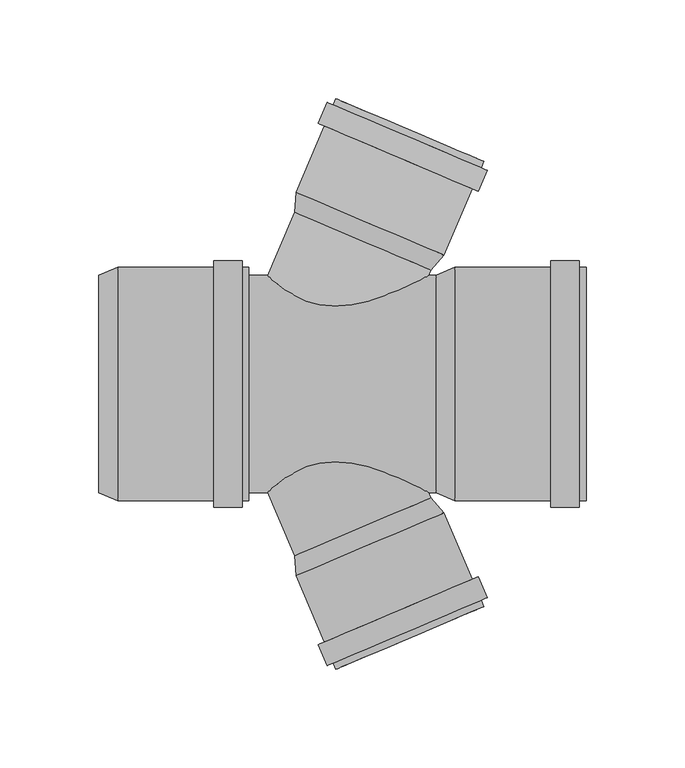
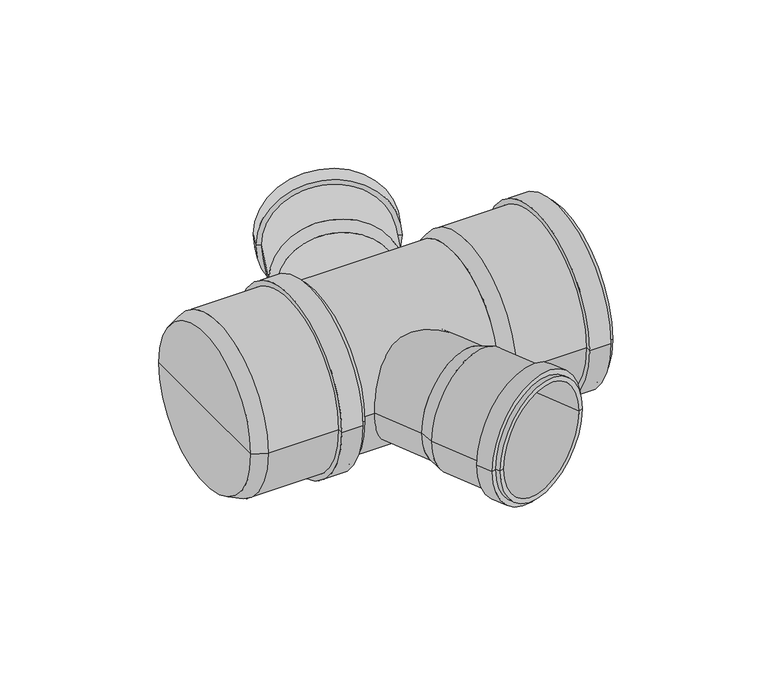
"""IFC4 building model written with IfcOpenShell, lengths in millimetres: pipe fitting geometry, pf_HTDA : pf_HTDA."""

from ifc_helpers import new_model, si_unit, point, frame, origin, origin_2d, place, context, project, spatial, polyline, circle_curve, trimmed, segment, composite_curve, outline, extrude, source, transform, mapped, element, save
from ifc_brep_helpers import plane_surface, cylinder_surface, revolved_surface, advanced_brep


def pipe_fitting_336e07cd(model_context):
    return source(origin(), model_context, "Body", "SolidModel", [
        advanced_brep(
        [(65.2303987, 57.6992642, 0.0), (-3.8074653, 87.0040988, 0.0), (-2.9490846, 96.9601614, 0.0), (71.7959095, 65.2327938, 0.0), (30.7114667, 72.3516815, 0.0), (91.9185626, 112.6387937, 0.0), (17.1735685, 144.3661614, 0.0), (20.0271335, 143.1548949, 0.0), (89.0649975, 113.8500602, 0.0), (90.5900768, 109.5090772, 0.0), (15.8450827, 141.2364449, 0.0), (93.7197933, 108.1805914, 0.0), (12.7153661, 142.5649307, 0.0), (89.1873122, 97.5027351, 0.0), (8.1828851, 131.8870744, 0.0), (86.0575957, 98.8312209, 0.0), (11.3126016, 130.5585886, 0.0), (68.9423444, 66.4440603, 0.0), (-0.0955196, 95.7488949, 0.0), (34.4234124, 81.0964776, 0.0)],
        [
            (0, 1, circle_curve(frame((30.7114667, 72.3516815, 0.0), z_axis=(0.39073112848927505, 0.9205048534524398, 0.0), x_axis=(-0.9205048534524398, 0.39073112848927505, 0.0)), 37.5)),
            (1, 2),
            (2, 3, circle_curve(frame((34.4234124, 81.0964776, 0.0), z_axis=(-0.39073112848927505, -0.9205048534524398, 0.0), x_axis=(-0.9205048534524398, 0.39073112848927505, 0.0)), 40.6)),
            (3, 0),
            (1, 0, circle_curve(frame((30.7114667, 72.3516815, 0.0), z_axis=(0.39073112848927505, 0.9205048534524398, 0.0), x_axis=(-0.9205048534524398, 0.39073112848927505, 0.0)), 37.5)),
            (3, 2, circle_curve(frame((34.4234124, 81.0964776, 0.0), z_axis=(-0.39073112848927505, -0.9205048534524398, 0.0), x_axis=(-0.9205048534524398, 0.39073112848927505, 0.0)), 40.6)),
            (4, 1),
            (0, 4),
            (5, 6, circle_curve(frame((54.5460655, 128.5024775, 0.0), z_axis=(0.39073112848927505, 0.9205048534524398, 0.0), x_axis=(-0.9205048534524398, 0.39073112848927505, 0.0)), 40.6)),
            (6, 7),
            (7, 8, circle_curve(frame((54.5460655, 128.5024775, 0.0), z_axis=(-0.39073112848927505, -0.9205048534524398, 0.0), x_axis=(-0.9205048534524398, 0.39073112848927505, 0.0)), 37.5)),
            (8, 5),
            (6, 5, circle_curve(frame((54.5460655, 128.5024775, 0.0), z_axis=(0.39073112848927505, 0.9205048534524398, 0.0), x_axis=(-0.9205048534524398, 0.39073112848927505, 0.0)), 40.6)),
            (8, 7, circle_curve(frame((54.5460655, 128.5024775, 0.0), z_axis=(-0.39073112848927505, -0.9205048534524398, 0.0), x_axis=(-0.9205048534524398, 0.39073112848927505, 0.0)), 37.5)),
            (9, 10, circle_curve(frame((53.2175797, 125.372761, 0.0), z_axis=(0.39073112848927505, 0.9205048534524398, 0.0), x_axis=(-0.9205048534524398, 0.39073112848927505, 0.0)), 40.6)),
            (10, 6),
            (5, 9),
            (10, 9, circle_curve(frame((53.2175797, 125.372761, 0.0), z_axis=(0.39073112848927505, 0.9205048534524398, 0.0), x_axis=(-0.9205048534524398, 0.39073112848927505, 0.0)), 40.6)),
            (11, 12, circle_curve(frame((53.2175797, 125.372761, 0.0), z_axis=(0.39073112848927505, 0.9205048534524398, 0.0), x_axis=(-0.9205048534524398, 0.39073112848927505, 0.0)), 44.0)),
            (12, 10),
            (9, 11),
            (12, 11, circle_curve(frame((53.2175797, 125.372761, 0.0), z_axis=(0.39073112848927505, 0.9205048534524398, 0.0), x_axis=(-0.9205048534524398, 0.39073112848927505, 0.0)), 44.0)),
            (13, 14, circle_curve(frame((48.6850986, 114.6949047, 0.0), z_axis=(0.39073112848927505, 0.9205048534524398, 0.0), x_axis=(-0.9205048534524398, 0.39073112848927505, 0.0)), 44.0)),
            (14, 12),
            (11, 13),
            (14, 13, circle_curve(frame((48.6850986, 114.6949047, 0.0), z_axis=(0.39073112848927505, 0.9205048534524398, 0.0), x_axis=(-0.9205048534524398, 0.39073112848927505, 0.0)), 44.0)),
            (15, 16, circle_curve(frame((48.6850986, 114.6949047, 0.0), z_axis=(0.39073112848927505, 0.9205048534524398, 0.0), x_axis=(-0.9205048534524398, 0.39073112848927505, 0.0)), 40.6)),
            (16, 14),
            (13, 15),
            (16, 15, circle_curve(frame((48.6850986, 114.6949047, 0.0), z_axis=(0.39073112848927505, 0.9205048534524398, 0.0), x_axis=(-0.9205048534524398, 0.39073112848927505, 0.0)), 40.6)),
            (2, 16),
            (15, 3),
            (17, 18, circle_curve(frame((34.4234124, 81.0964776, 0.0), z_axis=(0.39073112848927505, 0.9205048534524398, 0.0), x_axis=(-0.9205048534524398, 0.39073112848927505, 0.0)), 37.5)),
            (18, 19),
            (19, 17),
            (18, 17, circle_curve(frame((34.4234124, 81.0964776, 0.0), z_axis=(0.39073112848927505, 0.9205048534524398, 0.0), x_axis=(-0.9205048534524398, 0.39073112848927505, 0.0)), 37.5)),
            (7, 18),
            (17, 8),
        ],
        [
            revolved_surface(polyline([(-2.9490846, 96.9601614, 0.0), (-3.8074653, 87.0040988, 0.0)]), (30.7114667, 72.3516815, 0.0), (-0.39073112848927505, -0.9205048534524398, 0.0)),
            plane_surface(frame((30.7114667, 72.3516815, 0.0), z_axis=(-0.39073112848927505, -0.9205048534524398, 0.0), x_axis=(-0.9205048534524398, 0.39073112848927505, 0.0))),
            plane_surface(frame((54.5460655, 128.5024775, 0.0), z_axis=(0.39073112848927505, 0.9205048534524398, 0.0), x_axis=(-0.9205048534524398, 0.39073112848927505, 0.0))),
            cylinder_surface(frame((30.7114667, 72.3516815, 0.0), z_axis=(-0.39073112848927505, -0.9205048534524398, 0.0), x_axis=(-0.9205048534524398, 0.39073112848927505, 0.0)), 40.6),
            plane_surface(frame((53.2175797, 125.372761, 0.0), z_axis=(0.39073112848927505, 0.9205048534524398, 0.0), x_axis=(-0.9205048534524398, 0.39073112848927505, 0.0))),
            cylinder_surface(frame((30.7114667, 72.3516815, 0.0), z_axis=(-0.39073112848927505, -0.9205048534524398, 0.0), x_axis=(-0.9205048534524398, 0.39073112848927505, 0.0)), 44.0),
            plane_surface(frame((48.6850986, 114.6949047, 0.0), z_axis=(-0.39073112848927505, -0.9205048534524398, 0.0), x_axis=(-0.9205048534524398, 0.39073112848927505, 0.0))),
            plane_surface(frame((34.4234124, 81.0964776, 0.0), z_axis=(0.39073112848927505, 0.9205048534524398, 0.0), x_axis=(-0.9205048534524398, 0.39073112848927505, 0.0))),
            revolved_surface(polyline([(-0.0955195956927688, 95.74889489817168, 0.0), (20.027133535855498, 143.15489488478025, 0.0)]), (30.7114667, 72.3516815, 0.0), (-0.39073112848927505, -0.9205048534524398, 0.0)),
        ],
        [
            (0, [[1, 2, 3, 4]]),
            (0, [[5, -4, 6, -2]]),
            (1, [[7, -1, 8]]),
            (1, [[-8, -5, -7]]),
            (2, [[9, 10, 11, 12]]),
            (2, [[13, -12, 14, -10]]),
            (3, [[15, 16, -9, 17]]),
            (3, [[18, -17, -13, -16]]),
            (4, [[19, 20, -15, 21]]),
            (4, [[22, -21, -18, -20]]),
            (5, [[23, 24, -19, 25]]),
            (5, [[26, -25, -22, -24]]),
            (6, [[27, 28, -23, 29]]),
            (6, [[30, -29, -26, -28]]),
            (3, [[-3, 31, -27, 32]]),
            (3, [[-6, -32, -30, -31]]),
            (7, [[33, 34, 35]]),
            (7, [[36, -35, -34]]),
            (8, [[-11, 37, -33, 38]]),
            (8, [[-14, -38, -36, -37]]),
        ],
    ),
        advanced_brep(
        [(-3.8074653, -87.0040988, 0.0), (65.2303987, -57.6992642, 0.0), (71.7959095, -65.2327938, 0.0), (-2.9490846, -96.9601614, 0.0), (30.7114667, -72.3516815, 0.0), (17.1735685, -144.3661614, 0.0), (91.9185626, -112.6387937, 0.0), (89.0649975, -113.8500602, 0.0), (20.0271335, -143.1548949, 0.0), (15.8450827, -141.2364449, 0.0), (90.5900768, -109.5090772, 0.0), (12.7153661, -142.5649307, 0.0), (93.7197933, -108.1805914, 0.0), (8.1828851, -131.8870744, 0.0), (89.1873122, -97.5027351, 0.0), (11.3126016, -130.5585886, 0.0), (86.0575957, -98.8312209, 0.0), (-0.0955196, -95.7488949, 0.0), (68.9423444, -66.4440603, 0.0), (34.4234124, -81.0964776, 0.0)],
        [
            (0, 1, circle_curve(frame((30.7114667, -72.3516815, 0.0), z_axis=(0.3907311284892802, -0.9205048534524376, 0.0), x_axis=(0.9205048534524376, 0.3907311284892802, 0.0)), 37.5)),
            (1, 2),
            (2, 3, circle_curve(frame((34.4234124, -81.0964776, 0.0), z_axis=(-0.3907311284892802, 0.9205048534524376, 0.0), x_axis=(0.9205048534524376, 0.3907311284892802, 0.0)), 40.6)),
            (3, 0),
            (1, 0, circle_curve(frame((30.7114667, -72.3516815, 0.0), z_axis=(0.3907311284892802, -0.9205048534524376, 0.0), x_axis=(0.9205048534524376, 0.3907311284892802, 0.0)), 37.5)),
            (3, 2, circle_curve(frame((34.4234124, -81.0964776, 0.0), z_axis=(-0.3907311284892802, 0.9205048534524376, 0.0), x_axis=(0.9205048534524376, 0.3907311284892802, 0.0)), 40.6)),
            (4, 1),
            (0, 4),
            (5, 6, circle_curve(frame((54.5460655, -128.5024775, 0.0), z_axis=(0.3907311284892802, -0.9205048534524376, 0.0), x_axis=(0.9205048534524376, 0.3907311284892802, 0.0)), 40.6)),
            (6, 7),
            (7, 8, circle_curve(frame((54.5460655, -128.5024775, 0.0), z_axis=(-0.3907311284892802, 0.9205048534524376, 0.0), x_axis=(0.9205048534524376, 0.3907311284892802, 0.0)), 37.5)),
            (8, 5),
            (6, 5, circle_curve(frame((54.5460655, -128.5024775, 0.0), z_axis=(0.3907311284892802, -0.9205048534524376, 0.0), x_axis=(0.9205048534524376, 0.3907311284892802, 0.0)), 40.6)),
            (8, 7, circle_curve(frame((54.5460655, -128.5024775, 0.0), z_axis=(-0.3907311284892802, 0.9205048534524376, 0.0), x_axis=(0.9205048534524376, 0.3907311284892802, 0.0)), 37.5)),
            (9, 10, circle_curve(frame((53.2175797, -125.372761, 0.0), z_axis=(0.3907311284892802, -0.9205048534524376, 0.0), x_axis=(0.9205048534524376, 0.3907311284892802, 0.0)), 40.6)),
            (10, 6),
            (5, 9),
            (10, 9, circle_curve(frame((53.2175797, -125.372761, 0.0), z_axis=(0.3907311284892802, -0.9205048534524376, 0.0), x_axis=(0.9205048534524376, 0.3907311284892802, 0.0)), 40.6)),
            (11, 12, circle_curve(frame((53.2175797, -125.372761, 0.0), z_axis=(0.3907311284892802, -0.9205048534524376, 0.0), x_axis=(0.9205048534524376, 0.3907311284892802, 0.0)), 44.0)),
            (12, 10),
            (9, 11),
            (12, 11, circle_curve(frame((53.2175797, -125.372761, 0.0), z_axis=(0.3907311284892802, -0.9205048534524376, 0.0), x_axis=(0.9205048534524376, 0.3907311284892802, 0.0)), 44.0)),
            (13, 14, circle_curve(frame((48.6850986, -114.6949047, 0.0), z_axis=(0.3907311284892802, -0.9205048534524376, 0.0), x_axis=(0.9205048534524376, 0.3907311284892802, 0.0)), 44.0)),
            (14, 12),
            (11, 13),
            (14, 13, circle_curve(frame((48.6850986, -114.6949047, 0.0), z_axis=(0.3907311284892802, -0.9205048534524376, 0.0), x_axis=(0.9205048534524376, 0.3907311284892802, 0.0)), 44.0)),
            (15, 16, circle_curve(frame((48.6850986, -114.6949047, 0.0), z_axis=(0.3907311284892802, -0.9205048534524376, 0.0), x_axis=(0.9205048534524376, 0.3907311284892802, 0.0)), 40.6)),
            (16, 14),
            (13, 15),
            (16, 15, circle_curve(frame((48.6850986, -114.6949047, 0.0), z_axis=(0.3907311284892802, -0.9205048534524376, 0.0), x_axis=(0.9205048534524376, 0.3907311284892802, 0.0)), 40.6)),
            (2, 16),
            (15, 3),
            (17, 18, circle_curve(frame((34.4234124, -81.0964776, 0.0), z_axis=(0.3907311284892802, -0.9205048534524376, 0.0), x_axis=(0.9205048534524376, 0.3907311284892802, 0.0)), 37.5)),
            (18, 19),
            (19, 17),
            (18, 17, circle_curve(frame((34.4234124, -81.0964776, 0.0), z_axis=(0.3907311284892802, -0.9205048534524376, 0.0), x_axis=(0.9205048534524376, 0.3907311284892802, 0.0)), 37.5)),
            (7, 18),
            (17, 8),
        ],
        [
            revolved_surface(polyline([(71.7959095, -65.2327938, 0.0), (65.2303987, -57.6992642, 0.0)]), (30.7114667, -72.3516815, 0.0), (-0.3907311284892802, 0.9205048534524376, 0.0)),
            plane_surface(frame((30.7114667, -72.3516815, 0.0), z_axis=(-0.3907311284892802, 0.9205048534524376, 0.0), x_axis=(0.9205048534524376, 0.3907311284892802, 0.0))),
            plane_surface(frame((54.5460655, -128.5024775, 0.0), z_axis=(0.3907311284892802, -0.9205048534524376, 0.0), x_axis=(0.9205048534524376, 0.3907311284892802, 0.0))),
            cylinder_surface(frame((30.7114667, -72.3516815, 0.0), z_axis=(-0.3907311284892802, 0.9205048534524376, 0.0), x_axis=(0.9205048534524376, 0.3907311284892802, 0.0)), 40.6),
            plane_surface(frame((53.2175797, -125.372761, 0.0), z_axis=(0.3907311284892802, -0.9205048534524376, 0.0), x_axis=(0.9205048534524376, 0.3907311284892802, 0.0))),
            cylinder_surface(frame((30.7114667, -72.3516815, 0.0), z_axis=(-0.3907311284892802, 0.9205048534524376, 0.0), x_axis=(0.9205048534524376, 0.3907311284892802, 0.0)), 44.0),
            plane_surface(frame((48.6850986, -114.6949047, 0.0), z_axis=(-0.3907311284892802, 0.9205048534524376, 0.0), x_axis=(0.9205048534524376, 0.3907311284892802, 0.0))),
            plane_surface(frame((34.4234124, -81.0964776, 0.0), z_axis=(0.3907311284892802, -0.9205048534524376, 0.0), x_axis=(0.9205048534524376, 0.3907311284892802, 0.0))),
            revolved_surface(polyline([(68.94234441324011, -66.44406026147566, 0.0), (89.06499754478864, -113.85006024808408, 0.0)]), (30.7114667, -72.3516815, 0.0), (-0.3907311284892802, 0.9205048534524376, 0.0)),
        ],
        [
            (0, [[1, 2, 3, 4]]),
            (0, [[5, -4, 6, -2]]),
            (1, [[7, -1, 8]]),
            (1, [[-8, -5, -7]]),
            (2, [[9, 10, 11, 12]]),
            (2, [[13, -12, 14, -10]]),
            (3, [[15, 16, -9, 17]]),
            (3, [[18, -17, -13, -16]]),
            (4, [[19, 20, -15, 21]]),
            (4, [[22, -21, -18, -20]]),
            (5, [[23, 24, -19, 25]]),
            (5, [[26, -25, -22, -24]]),
            (6, [[27, 28, -23, 29]]),
            (6, [[30, -29, -26, -28]]),
            (3, [[-3, 31, -27, 32]]),
            (3, [[-6, -32, -30, -31]]),
            (7, [[33, 34, 35]]),
            (7, [[36, -35, -34]]),
            (8, [[-11, 37, -33, 38]]),
            (8, [[-14, -38, -36, -37]]),
        ],
    ),
        advanced_brep(
        [(67.8, -55.0, 0.0), (67.8, 55.0, 0.0), (77.3, 59.1, 0.0), (77.3, -59.1, 0.0), (67.8, 0.0, 0.0), (143.8, -59.1, 0.0), (143.8, 59.1, 0.0), (143.8, 55.0, 0.0), (143.8, -55.0, 0.0), (140.4, -59.1, 0.0), (140.4, 59.1, 0.0), (140.4, -62.5, 0.0), (140.4, 62.5, 0.0), (125.9, -62.5, 0.0), (125.9, 62.5, 0.0), (125.9, -59.1, 0.0), (125.9, 59.1, 0.0), (77.3, -55.0, 0.0), (77.3, 55.0, 0.0), (77.3, 0.0, 0.0)],
        [
            (0, 1, circle_curve(frame((67.8, 0.0, 0.0), z_axis=(1.0, 0.0, 0.0), x_axis=(0.0, 1.0, 0.0)), 55.0)),
            (1, 2),
            (2, 3, circle_curve(frame((77.3, 0.0, 0.0), z_axis=(-1.0, 0.0, 0.0), x_axis=(0.0, 1.0, 0.0)), 59.1)),
            (3, 0),
            (1, 0, circle_curve(frame((67.8, 0.0, 0.0), z_axis=(1.0, 0.0, 0.0), x_axis=(0.0, 1.0, 0.0)), 55.0)),
            (3, 2, circle_curve(frame((77.3, 0.0, 0.0), z_axis=(-1.0, 0.0, 0.0), x_axis=(0.0, 1.0, 0.0)), 59.1)),
            (4, 1),
            (0, 4),
            (5, 6, circle_curve(frame((143.8, 0.0, 0.0), z_axis=(1.0, 0.0, 0.0), x_axis=(0.0, 1.0, 0.0)), 59.1)),
            (6, 7),
            (7, 8, circle_curve(frame((143.8, 0.0, 0.0), z_axis=(-1.0, 0.0, 0.0), x_axis=(0.0, 1.0, 0.0)), 55.0)),
            (8, 5),
            (6, 5, circle_curve(frame((143.8, 0.0, 0.0), z_axis=(1.0, 0.0, 0.0), x_axis=(0.0, 1.0, 0.0)), 59.1)),
            (8, 7, circle_curve(frame((143.8, 0.0, 0.0), z_axis=(-1.0, 0.0, 0.0), x_axis=(0.0, 1.0, 0.0)), 55.0)),
            (9, 10, circle_curve(frame((140.4, 0.0, 0.0), z_axis=(1.0, 0.0, 0.0), x_axis=(0.0, 1.0, 0.0)), 59.1)),
            (10, 6),
            (5, 9),
            (10, 9, circle_curve(frame((140.4, 0.0, 0.0), z_axis=(1.0, 0.0, 0.0), x_axis=(0.0, 1.0, 0.0)), 59.1)),
            (11, 12, circle_curve(frame((140.4, 0.0, 0.0), z_axis=(1.0, 0.0, 0.0), x_axis=(0.0, 1.0, 0.0)), 62.5)),
            (12, 10),
            (9, 11),
            (12, 11, circle_curve(frame((140.4, 0.0, 0.0), z_axis=(1.0, 0.0, 0.0), x_axis=(0.0, 1.0, 0.0)), 62.5)),
            (13, 14, circle_curve(frame((125.9, 0.0, 0.0), z_axis=(1.0, 0.0, 0.0), x_axis=(0.0, 1.0, 0.0)), 62.5)),
            (14, 12),
            (11, 13),
            (14, 13, circle_curve(frame((125.9, 0.0, 0.0), z_axis=(1.0, 0.0, 0.0), x_axis=(0.0, 1.0, 0.0)), 62.5)),
            (15, 16, circle_curve(frame((125.9, 0.0, 0.0), z_axis=(1.0, 0.0, 0.0), x_axis=(0.0, 1.0, 0.0)), 59.1)),
            (16, 14),
            (13, 15),
            (16, 15, circle_curve(frame((125.9, 0.0, 0.0), z_axis=(1.0, 0.0, 0.0), x_axis=(0.0, 1.0, 0.0)), 59.1)),
            (2, 16),
            (15, 3),
            (17, 18, circle_curve(frame((77.3, 0.0, 0.0), z_axis=(1.0, 0.0, 0.0), x_axis=(0.0, 1.0, 0.0)), 55.0)),
            (18, 19),
            (19, 17),
            (18, 17, circle_curve(frame((77.3, 0.0, 0.0), z_axis=(1.0, 0.0, 0.0), x_axis=(0.0, 1.0, 0.0)), 55.0)),
            (7, 18),
            (17, 8),
        ],
        [
            revolved_surface(polyline([(77.3, 59.1, 0.0), (67.8, 55.0, 0.0)]), (67.8, 0.0, 0.0), (-1.0, 0.0, 0.0)),
            plane_surface(frame((67.8, 0.0, 0.0), z_axis=(-1.0, 0.0, 0.0), x_axis=(0.0, 1.0, 0.0))),
            plane_surface(frame((143.8, 0.0, 0.0), z_axis=(1.0, 0.0, 0.0), x_axis=(0.0, 1.0, 0.0))),
            cylinder_surface(frame((67.8, 0.0, 0.0), z_axis=(-1.0, 0.0, 0.0), x_axis=(0.0, 1.0, 0.0)), 59.1),
            plane_surface(frame((140.4, 0.0, 0.0), z_axis=(1.0, 0.0, 0.0), x_axis=(0.0, 1.0, 0.0))),
            cylinder_surface(frame((67.8, 0.0, 0.0), z_axis=(-1.0, 0.0, 0.0), x_axis=(0.0, 1.0, 0.0)), 62.5),
            plane_surface(frame((125.9, 0.0, 0.0), z_axis=(-1.0, 0.0, 0.0), x_axis=(0.0, 1.0, 0.0))),
            plane_surface(frame((77.3, 0.0, 0.0), z_axis=(1.0, 0.0, 0.0), x_axis=(0.0, 1.0, 0.0))),
            revolved_surface(polyline([(77.3, 55.0, 0.0), (143.8, 55.0, 0.0)]), (67.8, 0.0, 0.0), (-1.0, 0.0, 0.0)),
        ],
        [
            (0, [[1, 2, 3, 4]]),
            (0, [[5, -4, 6, -2]]),
            (1, [[7, -1, 8]]),
            (1, [[-8, -5, -7]]),
            (2, [[9, 10, 11, 12]]),
            (2, [[13, -12, 14, -10]]),
            (3, [[15, 16, -9, 17]]),
            (3, [[18, -17, -13, -16]]),
            (4, [[19, 20, -15, 21]]),
            (4, [[22, -21, -18, -20]]),
            (5, [[23, 24, -19, 25]]),
            (5, [[26, -25, -22, -24]]),
            (6, [[27, 28, -23, 29]]),
            (6, [[30, -29, -26, -28]]),
            (3, [[-3, 31, -27, 32]]),
            (3, [[-6, -32, -30, -31]]),
            (7, [[33, 34, 35]]),
            (7, [[36, -35, -34]]),
            (8, [[-11, 37, -33, 38]]),
            (8, [[-14, -38, -36, -37]]),
        ],
    ),
        advanced_brep(
        [(-102.9, -55.0, 0.0), (-102.9, 55.0, 0.0), (-93.4, 59.1, 0.0), (-93.4, -59.1, 0.0), (-102.9, 0.0, 0.0), (-26.9, -59.1, 0.0), (-26.9, 59.1, 0.0), (-26.9, 55.0, 0.0), (-26.9, -55.0, 0.0), (-30.3, -59.1, 0.0), (-30.3, 59.1, 0.0), (-30.3, -62.5, 0.0), (-30.3, 62.5, 0.0), (-44.8, -62.5, 0.0), (-44.8, 62.5, 0.0), (-44.8, -59.1, 0.0), (-44.8, 59.1, 0.0), (-93.4, -55.0, 0.0), (-93.4, 55.0, 0.0), (-93.4, 0.0, 0.0)],
        [
            (0, 1, circle_curve(frame((-102.9, 0.0, 0.0), z_axis=(1.0, 0.0, 0.0), x_axis=(0.0, 1.0, 0.0)), 55.0)),
            (1, 2),
            (2, 3, circle_curve(frame((-93.4, 0.0, 0.0), z_axis=(-1.0, 0.0, 0.0), x_axis=(0.0, 1.0, 0.0)), 59.1)),
            (3, 0),
            (1, 0, circle_curve(frame((-102.9, 0.0, 0.0), z_axis=(1.0, 0.0, 0.0), x_axis=(0.0, 1.0, 0.0)), 55.0)),
            (3, 2, circle_curve(frame((-93.4, 0.0, 0.0), z_axis=(-1.0, 0.0, 0.0), x_axis=(0.0, 1.0, 0.0)), 59.1)),
            (4, 1),
            (0, 4),
            (5, 6, circle_curve(frame((-26.9, 0.0, 0.0), z_axis=(1.0, 0.0, 0.0), x_axis=(0.0, 1.0, 0.0)), 59.1)),
            (6, 7),
            (7, 8, circle_curve(frame((-26.9, 0.0, 0.0), z_axis=(-1.0, 0.0, 0.0), x_axis=(0.0, 1.0, 0.0)), 55.0)),
            (8, 5),
            (6, 5, circle_curve(frame((-26.9, 0.0, 0.0), z_axis=(1.0, 0.0, 0.0), x_axis=(0.0, 1.0, 0.0)), 59.1)),
            (8, 7, circle_curve(frame((-26.9, 0.0, 0.0), z_axis=(-1.0, 0.0, 0.0), x_axis=(0.0, 1.0, 0.0)), 55.0)),
            (9, 10, circle_curve(frame((-30.3, 0.0, 0.0), z_axis=(1.0, 0.0, 0.0), x_axis=(0.0, 1.0, 0.0)), 59.1)),
            (10, 6),
            (5, 9),
            (10, 9, circle_curve(frame((-30.3, 0.0, 0.0), z_axis=(1.0, 0.0, 0.0), x_axis=(0.0, 1.0, 0.0)), 59.1)),
            (11, 12, circle_curve(frame((-30.3, 0.0, 0.0), z_axis=(1.0, 0.0, 0.0), x_axis=(0.0, 1.0, 0.0)), 62.5)),
            (12, 10),
            (9, 11),
            (12, 11, circle_curve(frame((-30.3, 0.0, 0.0), z_axis=(1.0, 0.0, 0.0), x_axis=(0.0, 1.0, 0.0)), 62.5)),
            (13, 14, circle_curve(frame((-44.8, 0.0, 0.0), z_axis=(1.0, 0.0, 0.0), x_axis=(0.0, 1.0, 0.0)), 62.5)),
            (14, 12),
            (11, 13),
            (14, 13, circle_curve(frame((-44.8, 0.0, 0.0), z_axis=(1.0, 0.0, 0.0), x_axis=(0.0, 1.0, 0.0)), 62.5)),
            (15, 16, circle_curve(frame((-44.8, 0.0, 0.0), z_axis=(1.0, 0.0, 0.0), x_axis=(0.0, 1.0, 0.0)), 59.1)),
            (16, 14),
            (13, 15),
            (16, 15, circle_curve(frame((-44.8, 0.0, 0.0), z_axis=(1.0, 0.0, 0.0), x_axis=(0.0, 1.0, 0.0)), 59.1)),
            (2, 16),
            (15, 3),
            (17, 18, circle_curve(frame((-93.4, 0.0, 0.0), z_axis=(1.0, 0.0, 0.0), x_axis=(0.0, 1.0, 0.0)), 55.0)),
            (18, 19),
            (19, 17),
            (18, 17, circle_curve(frame((-93.4, 0.0, 0.0), z_axis=(1.0, 0.0, 0.0), x_axis=(0.0, 1.0, 0.0)), 55.0)),
            (7, 18),
            (17, 8),
        ],
        [
            revolved_surface(polyline([(-93.4, 59.1, 0.0), (-102.9, 55.0, 0.0)]), (-102.9, 0.0, 0.0), (-1.0, 0.0, 0.0)),
            plane_surface(frame((-102.9, 0.0, 0.0), z_axis=(-1.0, 0.0, 0.0), x_axis=(0.0, 1.0, 0.0))),
            plane_surface(frame((-26.9, 0.0, 0.0), z_axis=(1.0, 0.0, 0.0), x_axis=(0.0, 1.0, 0.0))),
            cylinder_surface(frame((-102.9, 0.0, 0.0), z_axis=(-1.0, 0.0, 0.0), x_axis=(0.0, 1.0, 0.0)), 59.1),
            plane_surface(frame((-30.3, 0.0, 0.0), z_axis=(1.0, 0.0, 0.0), x_axis=(0.0, 1.0, 0.0))),
            cylinder_surface(frame((-102.9, 0.0, 0.0), z_axis=(-1.0, 0.0, 0.0), x_axis=(0.0, 1.0, 0.0)), 62.5),
            plane_surface(frame((-44.8, 0.0, 0.0), z_axis=(-1.0, 0.0, 0.0), x_axis=(0.0, 1.0, 0.0))),
            plane_surface(frame((-93.4, 0.0, 0.0), z_axis=(1.0, 0.0, 0.0), x_axis=(0.0, 1.0, 0.0))),
            revolved_surface(polyline([(-93.4, 55.0, 0.0), (-26.900000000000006, 55.0, 0.0)]), (-102.9, 0.0, 0.0), (-1.0, 0.0, 0.0)),
        ],
        [
            (0, [[1, 2, 3, 4]]),
            (0, [[5, -4, 6, -2]]),
            (1, [[7, -1, 8]]),
            (1, [[-8, -5, -7]]),
            (2, [[9, 10, 11, 12]]),
            (2, [[13, -12, 14, -10]]),
            (3, [[15, 16, -9, 17]]),
            (3, [[18, -17, -13, -16]]),
            (4, [[19, 20, -15, 21]]),
            (4, [[22, -21, -18, -20]]),
            (5, [[23, 24, -19, 25]]),
            (5, [[26, -25, -22, -24]]),
            (6, [[27, 28, -23, 29]]),
            (6, [[30, -29, -26, -28]]),
            (3, [[-3, 31, -27, 32]]),
            (3, [[-6, -32, -30, -31]]),
            (7, [[33, 34, 35]]),
            (7, [[36, -35, -34]]),
            (8, [[-11, 37, -33, 38]]),
            (8, [[-14, -38, -36, -37]]),
        ],
    ),
        extrude(outline(composite_curve([segment(trimmed(circle_curve(origin_2d(), 37.5), [point((0.0, 37.5))], [point((0.0, -37.5))], False, "CARTESIAN"), True, "CONTINUOUS"), segment(trimmed(circle_curve(origin_2d(), 37.5), [point((0.0, -37.5))], [point((0.0, 37.5))], False, "CARTESIAN"), True, "CONTINUOUS")], self_intersect=False)), frame((0.0, 0.0, 0.0), z_axis=(0.39073112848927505, 0.9205048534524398, 0.0), x_axis=(0.0, 0.0, 1.0)), (0.0, 0.0, 1.0), 78.6),
        extrude(outline(composite_curve([segment(trimmed(circle_curve(origin_2d(), 37.5), [point((0.0, -37.5))], [point((0.0, 37.5))], False, "CARTESIAN"), True, "CONTINUOUS"), segment(trimmed(circle_curve(origin_2d(), 37.5), [point((0.0, 37.5))], [point((0.0, -37.5))], False, "CARTESIAN"), True, "CONTINUOUS")], self_intersect=False)), frame((30.7114667, -72.3516815, 0.0), z_axis=(-0.39073112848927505, 0.9205048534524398, 0.0), x_axis=(0.0, 0.0, 1.0)), (0.0, 0.0, 1.0), 78.6),
        extrude(outline(composite_curve([segment(trimmed(circle_curve(origin_2d(), 55.0), [point((-55.0, 0.0))], [point((55.0, 0.0))], False, "CARTESIAN"), True, "CONTINUOUS"), segment(trimmed(circle_curve(origin_2d(), 55.0), [point((55.0, 0.0))], [point((-55.0, 0.0))], False, "CARTESIAN"), True, "CONTINUOUS")], self_intersect=False)), frame((-93.4, 0.0, 0.0), z_axis=(1.0, 0.0, 0.0), x_axis=(0.0, 1.0, 0.0)), (0.0, 0.0, 1.0), 161.2),
    ])


if __name__ == "__main__":
    model = new_model("IFC4")
    model_context = context("Model", 3, world=origin())
    ifc_project = project(units=[si_unit("LENGTHUNIT", "METRE", prefix="MILLI")], contexts=[model_context])
    site = spatial("IfcSite", under=ifc_project)
    building = spatial("IfcBuilding", under=site)
    placement = place(None, origin())
    pipe_fitting_shape = pipe_fitting_336e07cd(model_context)
    element("IfcPipeFitting", 1, ObjectType="pf_HTDA : pf_HTDA", at=placement, inside=building, context=model_context, shape_type="MappedRepresentation", body=[
        mapped(pipe_fitting_shape, transform((0.0, 0.0, 0.0), x_axis=(1.0, 0.0, 0.0), y_axis=(0.0, 1.0, 0.0), z_axis=(0.0, 0.0, 1.0))),
    ])
    save(model, "model.ifc")
